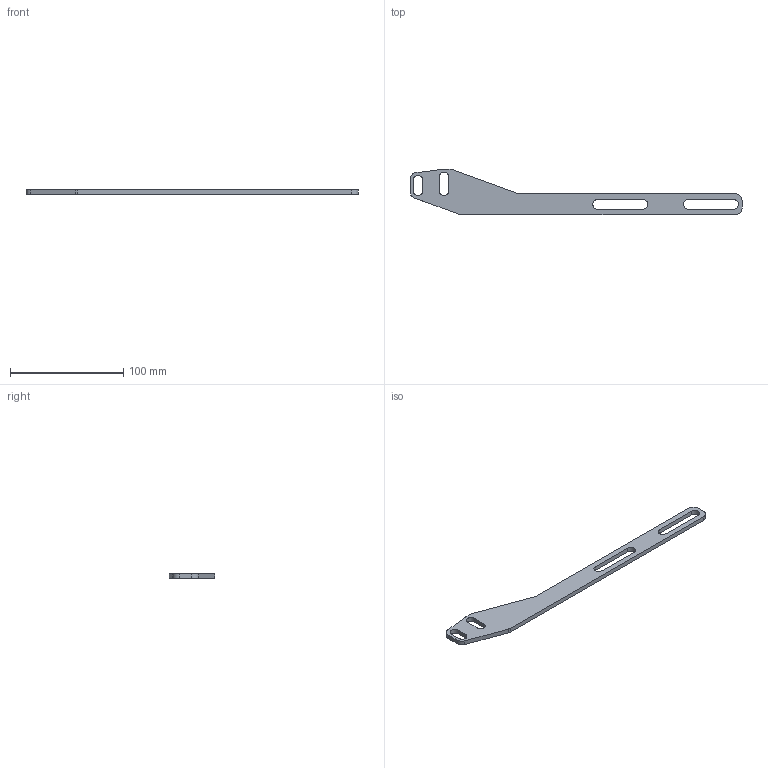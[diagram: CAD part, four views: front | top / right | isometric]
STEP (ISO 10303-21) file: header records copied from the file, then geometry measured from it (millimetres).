
FILE_DESCRIPTION(/* description */ ('BRACKET FOR ROLLER TRANSFER (DRIVE UNIT)'),/* implementation_level */ '2;1');
FILE_NAME(/* name */ '500-7112.stp',/* time_stamp */ '2022-09-22T08:56:02+02:00',/* author */ ('ML'),/* organization */ ('CARRYLINE'),/* preprocessor_version */ 'ST-DEVELOPER v19.2',/* originating_system */ 'Autodesk Inventor 2023',/* authorisation */ '');
FILE_SCHEMA (('AUTOMOTIVE_DESIGN { 1 0 10303 214 3 1 1 }'));
Length unit declared in the file: millimetre
Products named in the file (1): 500-7112
Bounding box: 293 x 40.25 x 4 mm (x, y, z)
Volume: 21331.7 mm3; surface area: 14396.4 mm2
Topology: 1 solids, 1 shells, 34 faces, 96 edges, 64 vertices
Faces by surface type: plane 18, cylinder 16
Entity records: 1171 total; most frequent: DIRECTION 198, CARTESIAN_POINT 195, ORIENTED_EDGE 192, EDGE_CURVE 96, AXIS2_PLACEMENT_3D 67, LINE 64, VECTOR 64, VERTEX_POINT 64
